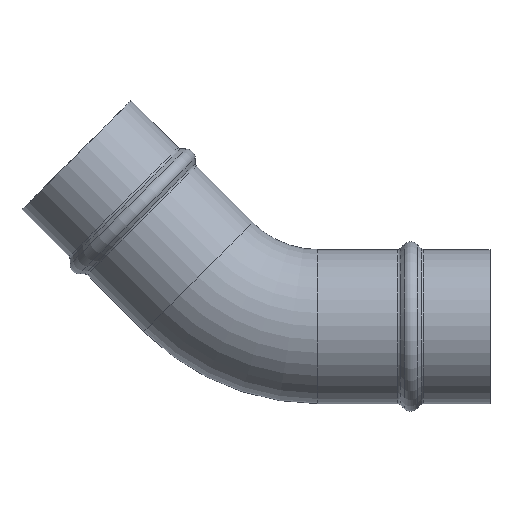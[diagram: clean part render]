
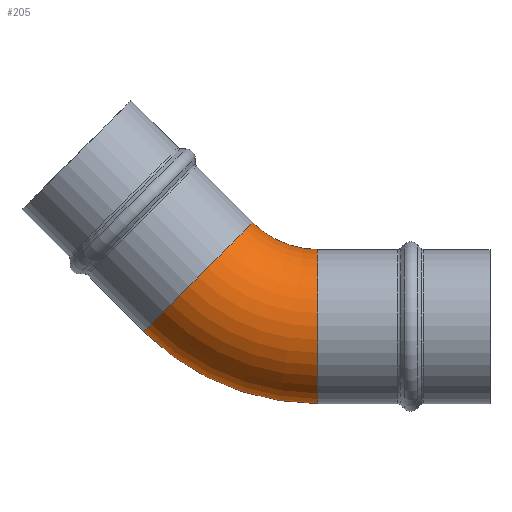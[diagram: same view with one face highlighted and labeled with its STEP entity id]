
A CAD part, top view. The second image highlights one B-rep face of the part: STEP entity #205.
In plain terms, the highlighted toroidal (fillet/blend) face has major radius 73.5 mm and minor radius 33.5 mm.
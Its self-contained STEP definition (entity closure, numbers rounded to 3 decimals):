
#205=ADVANCED_FACE('',(#295),#267,.T.);
#267=TOROIDAL_SURFACE('',#994,73.5,33.5);
#295=FACE_OUTER_BOUND('',#355,.T.);
#355=EDGE_LOOP('',(#419,#420,#421,#422,#423,#424));
#419=ORIENTED_EDGE('',*,*,#755,.T.);
#420=ORIENTED_EDGE('',*,*,#756,.T.);
#421=ORIENTED_EDGE('',*,*,#757,.F.);
#422=ORIENTED_EDGE('',*,*,#758,.F.);
#423=ORIENTED_EDGE('',*,*,#759,.F.);
#424=ORIENTED_EDGE('',*,*,#760,.T.);
#683=VERTEX_POINT('',#1510);
#684=VERTEX_POINT('',#1511);
#685=VERTEX_POINT('',#1513);
#686=VERTEX_POINT('',#1515);
#687=VERTEX_POINT('',#1517);
#688=VERTEX_POINT('',#1519);
#755=EDGE_CURVE('',#683,#684,#887,.T.);
#756=EDGE_CURVE('',#684,#685,#888,.T.);
#757=EDGE_CURVE('',#686,#685,#889,.T.);
#758=EDGE_CURVE('',#687,#686,#890,.T.);
#759=EDGE_CURVE('',#688,#687,#891,.T.);
#760=EDGE_CURVE('',#688,#683,#892,.T.);
#887=CIRCLE('',#988,33.5);
#888=CIRCLE('',#989,107.);
#889=CIRCLE('',#990,33.5);
#890=CIRCLE('',#991,33.5);
#891=CIRCLE('',#992,40.);
#892=CIRCLE('',#993,33.5);
#988=AXIS2_PLACEMENT_3D('',#1509,#1152,#1153);
#989=AXIS2_PLACEMENT_3D('',#1512,#1154,#1155);
#990=AXIS2_PLACEMENT_3D('',#1514,#1156,#1157);
#991=AXIS2_PLACEMENT_3D('',#1516,#1158,#1159);
#992=AXIS2_PLACEMENT_3D('',#1518,#1160,#1161);
#993=AXIS2_PLACEMENT_3D('',#1520,#1162,#1163);
#994=AXIS2_PLACEMENT_3D('',#1521,#1164,#1165);
#1152=DIRECTION('',(0.707,-0.707,0.));
#1153=DIRECTION('',(0.,0.,1.));
#1154=DIRECTION('',(0.,0.,1.));
#1155=DIRECTION('',(-0.707,-0.707,0.));
#1156=DIRECTION('',(1.,0.,0.));
#1157=DIRECTION('',(0.,0.,1.));
#1158=DIRECTION('',(1.,0.,0.));
#1159=DIRECTION('',(0.,1.,0.));
#1160=DIRECTION('',(0.,0.,1.));
#1161=DIRECTION('',(-0.707,-0.707,0.));
#1162=DIRECTION('',(0.707,-0.707,0.));
#1163=DIRECTION('',(0.707,0.707,0.));
#1164=DIRECTION('',(0.,0.,1.));
#1165=DIRECTION('',(-0.707,-0.707,0.));
#1509=CARTESIAN_POINT('',(-51.972,-51.972,0.));
#1510=CARTESIAN_POINT('',(-51.972,-51.972,33.5));
#1511=CARTESIAN_POINT('',(-75.66,-75.66,0.));
#1512=CARTESIAN_POINT('',(0.,0.,0.));
#1513=CARTESIAN_POINT('',(0.,-107.,0.));
#1514=CARTESIAN_POINT('',(0.,-73.5,0.));
#1515=CARTESIAN_POINT('',(0.,-73.5,33.5));
#1516=CARTESIAN_POINT('',(0.,-73.5,0.));
#1517=CARTESIAN_POINT('',(0.,-40.,0.));
#1518=CARTESIAN_POINT('',(0.,0.,0.));
#1519=CARTESIAN_POINT('',(-28.284,-28.284,0.));
#1520=CARTESIAN_POINT('',(-51.972,-51.972,0.));
#1521=CARTESIAN_POINT('',(0.,0.,0.));
